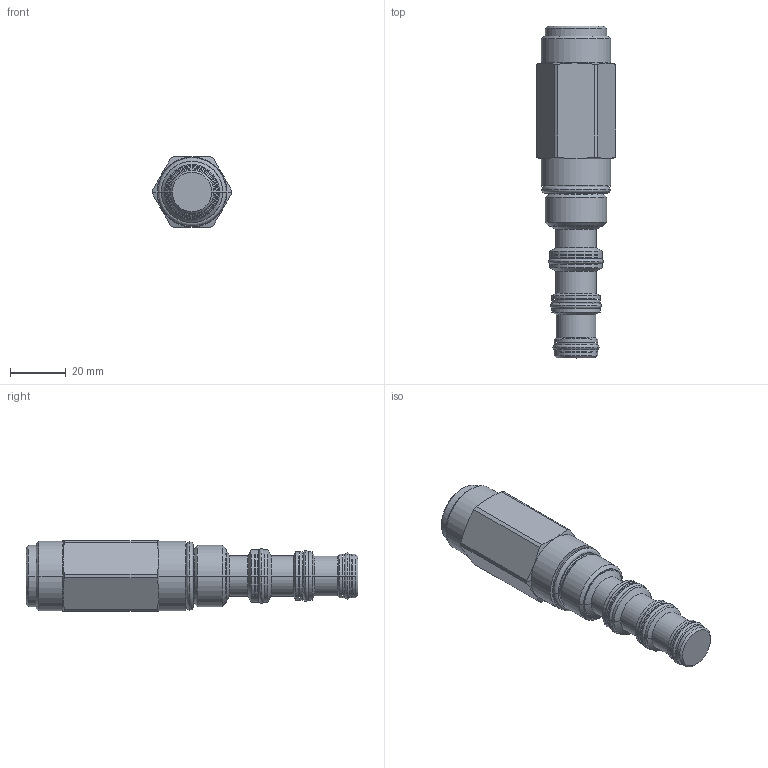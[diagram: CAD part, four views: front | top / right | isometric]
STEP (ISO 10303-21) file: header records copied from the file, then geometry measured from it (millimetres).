
FILE_DESCRIPTION((''),'2;1');
FILE_NAME('PRT0011','2009-03-24T',('JCS'),(''),'PRO/ENGINEER BY PARAMETRIC TECHNOLOGY CORPORATION, 2008510','PRO/ENGINEER BY PARAMETRIC TECHNOLOGY CORPORATION, 2008510','');
FILE_SCHEMA(('CONFIG_CONTROL_DESIGN'));
Length unit declared in the file: inch
Products named in the file (1): PRT0011
Bounding box: 28.57 x 119.55 x 25.4 mm (x, y, z)
Volume: 44628.3 mm3; surface area: 11896.7 mm2
Topology: 5 solids, 5 shells, 183 faces, 386 edges, 219 vertices
Faces by surface type: cylinder 56, plane 35, revolution 32, torus 30, cone 30
Entity records: 5598 total; most frequent: CARTESIAN_POINT 1582, DIRECTION 892, ORIENTED_EDGE 768, EDGE_CURVE 384, AXIS2_PLACEMENT_3D 375, CIRCLE 224, VERTEX_POINT 219, EDGE_LOOP 199
